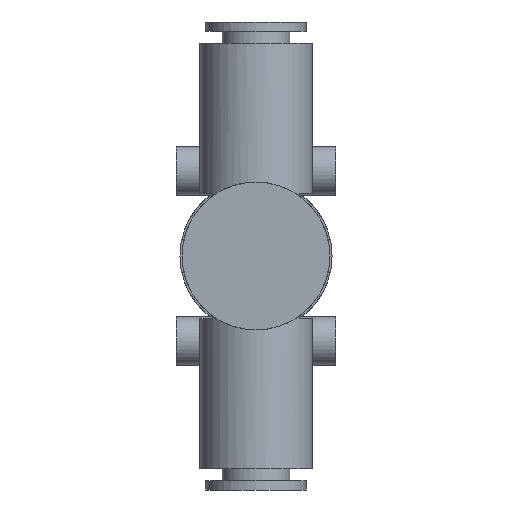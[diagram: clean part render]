
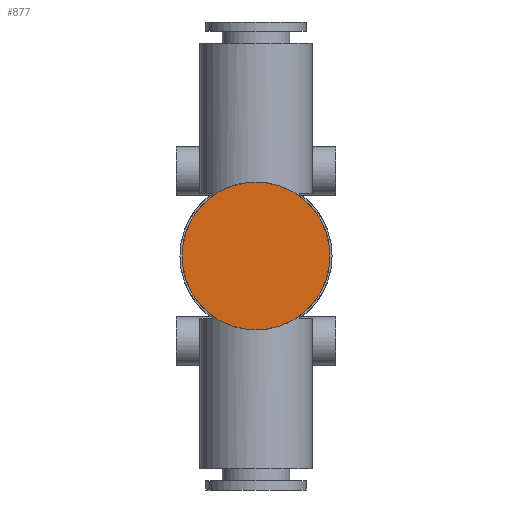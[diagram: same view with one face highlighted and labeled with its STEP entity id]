
A CAD part, front view. The second image highlights one B-rep face of the part: STEP entity #877.
In plain terms, the highlighted planar face has unit normal (0, -1, 0).
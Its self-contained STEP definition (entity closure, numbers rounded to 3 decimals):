
#30=PLANE('',#975);
#171=CIRCLE('',#943,12.15);
#304=ORIENTED_EDGE('',*,*,#465,.F.);
#465=EDGE_CURVE('',#575,#575,#171,.T.);
#575=VERTEX_POINT('',#1477);
#689=EDGE_LOOP('',(#304));
#789=FACE_BOUND('',#689,.T.);
#877=ADVANCED_FACE('',(#789),#30,.F.);
#943=AXIS2_PLACEMENT_3D('',#1476,#1069,#1070);
#975=AXIS2_PLACEMENT_3D('',#1564,#1145,#1146);
#1069=DIRECTION('',(0.,1.,0.));
#1070=DIRECTION('',(0.,0.,1.));
#1145=DIRECTION('',(0.,1.,0.));
#1146=DIRECTION('',(0.,0.,1.));
#1476=CARTESIAN_POINT('',(0.,-10.3,0.));
#1477=CARTESIAN_POINT('',(0.,-10.3,12.15));
#1564=CARTESIAN_POINT('',(0.,-10.3,0.));
